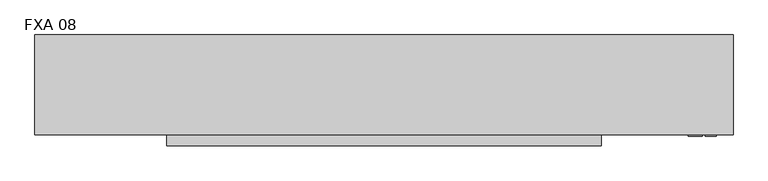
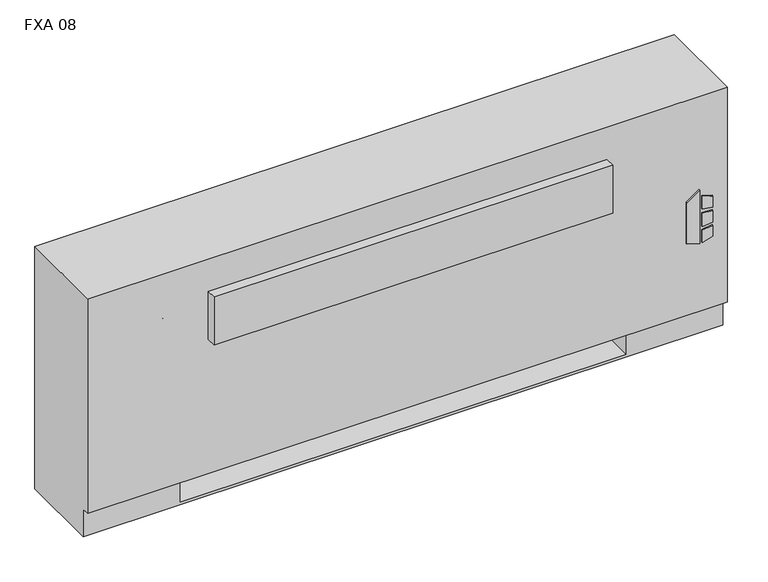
"""IFC4 building model written with IfcOpenShell, lengths in millimetres: proxy geometry, Vertical_Fan_Coil_Unit_-_FXA_-_IEC_-_4-Pipe_FS-FR_LH_2022 : FXA 08."""

from ifc_helpers import new_model, si_unit, point, frame, frame_2d, origin, place, context, project, spatial, polyline, circle_curve, trimmed, segment, composite_curve, outline, extrude, source, transform, mapped, element, save
from ifc_brep_helpers import plane_surface, revolved_surface, advanced_brep


def fxa_08_bbf97f14(model_context):
    return source(origin(), model_context, "Body", "SolidModel", [
        extrude(outline(polyline([(263.9480703, 849.3868862), (254.0, 881.5602728), (396.1709244, 881.5602728), (373.1489183, 849.3868862), (263.9480703, 849.3868862)])), frame((0.0, 12.7, 0.0), z_axis=(0.0, 1.0, 0.0), x_axis=(0.0, 0.0, 1.0)), (0.0, 0.0, 1.0), 3.175),
        extrude(outline(polyline([(342.9473557, 888.3186058), (339.7449632, 914.4), (368.9738042, 914.4), (377.0382193, 888.3186058), (342.9473557, 888.3186058)])), frame((0.0, 12.7, 0.0), z_axis=(0.0, 1.0, 0.0), x_axis=(0.0, 0.0, 1.0)), (0.0, 0.0, 1.0), 3.175),
        extrude(outline(polyline([(291.0838288, 914.4), (287.4183279, 888.3186058), (254.0, 888.3186058), (262.6342372, 914.4), (291.0838288, 914.4)])), frame((0.0, 12.7, 0.0), z_axis=(0.0, 1.0, 0.0), x_axis=(0.0, 0.0, 1.0)), (0.0, 0.0, 1.0), 3.175),
        extrude(outline(polyline([(330.3989903, 914.4), (332.6808166, 888.3186058), (296.7432681, 888.3186058), (299.4845331, 914.4), (330.3989903, 914.4)])), frame((0.0, 12.7, 0.0), z_axis=(0.0, 1.0, 0.0), x_axis=(0.0, 0.0, 1.0)), (0.0, 0.0, 1.0), 3.175),
        extrude(outline(polyline([(831.85, 223.266), (831.85, 81.534), (711.2, 81.534), (711.2, 223.266), (831.85, 223.266)])), frame((0.0, 0.0, 327.025), z_axis=(0.0, 0.0, 1.0), x_axis=(1.0, 0.0, 0.0)), (0.0, 0.0, 1.0), 260.35),
        extrude(outline(composite_curve([segment(trimmed(circle_curve(frame_2d((-469.9, 130.175)), 9.525), [point((-479.425, 130.175))], [point((-460.375, 130.175))], False, "CARTESIAN"), True, "CONTINUOUS"), segment(trimmed(circle_curve(frame_2d((-469.9, 130.175)), 9.525), [point((-460.375, 130.175))], [point((-479.425, 130.175))], False, "CARTESIAN"), True, "CONTINUOUS")], self_intersect=False)), frame((0.0, 0.0, 101.6), z_axis=(0.0, 0.0, 1.0), x_axis=(1.0, 0.0, 0.0)), (0.0, 0.0, 1.0), 25.4),
        extrude(outline(polyline([(-571.5, 63.5), (-571.5, 196.85), (-406.4, 196.85), (-406.4, 63.5), (-571.5, 63.5)])), frame((0.0, 0.0, 127.0), z_axis=(0.0, 0.0, 1.0), x_axis=(1.0, 0.0, 0.0)), (0.0, 0.0, 1.0), 50.8),
        extrude(outline(polyline([(650.875, -9.525), (-346.075, -9.525), (-346.075, 15.875), (650.875, 15.875), (650.875, -9.525)])), frame((0.0, 0.0, 428.625), z_axis=(0.0, 0.0, 1.0), x_axis=(1.0, 0.0, 0.0)), (0.0, 0.0, 1.0), 127.0),
        extrude(outline(composite_curve([segment(trimmed(circle_curve(frame_2d((109.0168, 457.2)), 7.9375), [point((109.0168, 465.1375))], [point((109.0168, 449.2625))], False, "CARTESIAN"), True, "CONTINUOUS"), segment(trimmed(circle_curve(frame_2d((109.0168, 457.2)), 7.9375), [point((109.0168, 449.2625))], [point((109.0168, 465.1375))], False, "CARTESIAN"), True, "CONTINUOUS")], self_intersect=False)), frame((-457.2, 0.0, 0.0), z_axis=(1.0, 0.0, 0.0), x_axis=(0.0, 1.0, 0.0)), (0.0, 0.0, 1.0), 50.8),
        extrude(outline(composite_curve([segment(trimmed(circle_curve(frame_2d((172.085, 460.0194)), 7.9375), [point((172.085, 467.9569))], [point((172.085, 452.0819))], False, "CARTESIAN"), True, "CONTINUOUS"), segment(trimmed(circle_curve(frame_2d((172.085, 460.0194)), 7.9375), [point((172.085, 452.0819))], [point((172.085, 467.9569))], False, "CARTESIAN"), True, "CONTINUOUS")], self_intersect=False)), frame((-457.2, 0.0, 0.0), z_axis=(1.0, 0.0, 0.0), x_axis=(0.0, 1.0, 0.0)), (0.0, 0.0, 1.0), 50.8),
        extrude(outline(composite_curve([segment(trimmed(circle_curve(frame_2d((130.175, 554.99)), 7.9502), [point((130.175, 562.9402))], [point((130.175, 547.0398))], False, "CARTESIAN"), True, "CONTINUOUS"), segment(trimmed(circle_curve(frame_2d((130.175, 554.99)), 7.9502), [point((130.175, 547.0398))], [point((130.175, 562.9402))], False, "CARTESIAN"), True, "CONTINUOUS")], self_intersect=False)), frame((-457.2, 0.0, 0.0), z_axis=(1.0, 0.0, 0.0), x_axis=(0.0, 1.0, 0.0)), (0.0, 0.0, 1.0), 50.8),
        extrude(outline(composite_curve([segment(trimmed(circle_curve(frame_2d((53.975, 416.56)), 7.9502), [point((53.975, 424.5102))], [point((53.975, 408.6098))], False, "CARTESIAN"), True, "CONTINUOUS"), segment(trimmed(circle_curve(frame_2d((53.975, 416.56)), 7.9502), [point((53.975, 408.6098))], [point((53.975, 424.5102))], False, "CARTESIAN"), True, "CONTINUOUS")], self_intersect=False)), frame((-457.2, 0.0, 0.0), z_axis=(1.0, 0.0, 0.0), x_axis=(0.0, 1.0, 0.0)), (0.0, 0.0, 1.0), 50.8),
        advanced_brep(
        [(952.5, 244.475, 641.35), (-647.7, 244.475, 641.35), (-647.7, 15.875, 641.35), (952.5, 15.875, 641.35), (-647.7, 244.475, 0.0), (952.5, 244.475, 0.0), (952.5, 34.925, 0.0), (-647.7, 34.925, 0.0), (711.2, 244.475, 73.025), (939.8, 244.475, 73.025), (939.8, 244.475, 628.65), (711.2, 244.475, 628.65), (711.2, 244.475, 414.8650565), (739.775, 244.475, 414.8650565), (739.775, 244.475, 385.2349435), (711.2, 244.475, 385.2349435), (711.2, 244.475, 287.3375), (739.775, 244.475, 287.3375), (739.775, 244.475, 258.7625), (711.2, 244.475, 258.7625), (711.2, 244.475, 141.2875), (739.775, 244.475, 141.2875), (739.775, 244.475, 112.7125), (711.2, 244.475, 112.7125), (-406.4, 244.475, 628.65), (-635.0, 244.475, 628.65), (-635.0, 244.475, 73.025), (-406.4, 244.475, 73.025), (-406.4, 244.475, 112.7125), (-434.975, 244.475, 112.7125), (-434.975, 244.475, 141.2875), (-406.4, 244.475, 141.2875), (-406.4, 244.475, 258.7625), (-434.975, 244.475, 258.7625), (-434.975, 244.475, 287.3375), (-406.4, 244.475, 287.3375), (-406.4, 244.475, 385.2349435), (-434.975, 244.475, 385.2349435), (-434.975, 244.475, 414.8650565), (-406.4, 244.475, 414.8650565), (729.4626, 244.475, 127.0), (718.3374, 244.475, 127.0), (729.4626, 244.475, 400.05), (718.3374, 244.475, 400.05), (729.4626, 244.475, 273.05), (718.3374, 244.475, 273.05), (-413.5374, 244.475, 127.0), (-424.6626, 244.475, 127.0), (-413.5374, 244.475, 273.05), (-424.6626, 244.475, 273.05), (-413.5374, 244.475, 400.05), (-424.6626, 244.475, 400.05), (-647.7, 34.925, 73.025), (-647.7, 15.875, 73.025), (952.5, 15.875, 73.025), (952.5, 34.925, 73.025), (-406.4, 34.925, 73.025), (-406.4, 219.075, 73.025), (711.2, 219.075, 73.025), (711.2, 34.925, 73.025), (711.2, 34.925, 6.35), (-406.4, 34.925, 6.35), (711.2, 41.275, 628.65), (939.8, 41.275, 628.65), (939.8, 41.275, 73.025), (711.2, 41.275, 73.025), (-406.4, 41.275, 628.65), (-406.4, 41.275, 73.025), (-635.0, 41.275, 73.025), (-635.0, 41.275, 628.65), (711.2, 219.075, 73.025), (711.2, 238.125, 112.7125), (711.2, 238.125, 141.2875), (711.2, 238.125, 258.7625), (711.2, 238.125, 287.3375), (711.2, 238.125, 385.2349435), (711.2, 238.125, 414.8650565), (-406.4, 219.075, 73.025), (-406.4, 238.125, 414.8650565), (-406.4, 238.125, 385.2349435), (-406.4, 238.125, 287.3375), (-406.4, 238.125, 258.7625), (-406.4, 238.125, 141.2875), (-406.4, 238.125, 112.7125), (-406.4, 219.075, 6.35), (711.2, 219.075, 6.35), (739.775, 238.125, 112.7125), (739.775, 238.125, 141.2875), (718.3374, 238.125, 127.0), (729.4626, 238.125, 127.0), (739.775, 238.125, 258.7625), (739.775, 238.125, 287.3375), (718.3374, 238.125, 273.05), (729.4626, 238.125, 273.05), (739.775, 238.125, 385.2349435), (739.775, 238.125, 414.8650565), (718.3374, 238.125, 400.05), (729.4626, 238.125, 400.05), (-434.975, 238.125, 141.2875), (-434.975, 238.125, 112.7125), (-424.6626, 238.125, 127.0), (-413.5374, 238.125, 127.0), (-434.975, 238.125, 287.3375), (-434.975, 238.125, 258.7625), (-424.6626, 238.125, 273.05), (-413.5374, 238.125, 273.05), (-434.975, 238.125, 414.8650565), (-434.975, 238.125, 385.2349435), (-424.6626, 238.125, 400.05), (-413.5374, 238.125, 400.05)],
        [
            (0, 1),
            (1, 2),
            (2, 3),
            (3, 0),
            (4, 5),
            (5, 6),
            (6, 7),
            (7, 4),
            (0, 5),
            (4, 1),
            (8, 9),
            (9, 10),
            (10, 11),
            (11, 12),
            (12, 13),
            (13, 14),
            (14, 15),
            (15, 16),
            (16, 17),
            (17, 18),
            (18, 19),
            (19, 20),
            (20, 21),
            (21, 22),
            (22, 23),
            (23, 8),
            (24, 25),
            (25, 26),
            (26, 27),
            (27, 28),
            (28, 29),
            (29, 30),
            (30, 31),
            (31, 32),
            (32, 33),
            (33, 34),
            (34, 35),
            (35, 36),
            (36, 37),
            (37, 38),
            (38, 39),
            (39, 24),
            (40, 41, circle_curve(frame((723.9, 244.475, 127.0), z_axis=(0.0, -1.0, 0.0), x_axis=(-1.0, 0.0, 0.0)), 5.5626)),
            (41, 40, circle_curve(frame((723.9, 244.475, 127.0), z_axis=(0.0, -1.0, 0.0), x_axis=(-1.0, 0.0, 0.0)), 5.5626)),
            (42, 43, circle_curve(frame((723.9, 244.475, 400.05), z_axis=(0.0, -1.0, 0.0), x_axis=(-1.0, 0.0, 0.0)), 5.5626)),
            (43, 42, circle_curve(frame((723.9, 244.475, 400.05), z_axis=(0.0, -1.0, 0.0), x_axis=(-1.0, 0.0, 0.0)), 5.5626)),
            (44, 45, circle_curve(frame((723.9, 244.475, 273.05), z_axis=(0.0, -1.0, 0.0), x_axis=(-1.0, 0.0, 0.0)), 5.5626)),
            (45, 44, circle_curve(frame((723.9, 244.475, 273.05), z_axis=(0.0, -1.0, 0.0), x_axis=(-1.0, 0.0, 0.0)), 5.5626)),
            (46, 47, circle_curve(frame((-419.1, 244.475, 127.0), z_axis=(0.0, -1.0, 0.0), x_axis=(-1.0, 0.0, 0.0)), 5.5626)),
            (47, 46, circle_curve(frame((-419.1, 244.475, 127.0), z_axis=(0.0, -1.0, 0.0), x_axis=(-1.0, 0.0, 0.0)), 5.5626)),
            (48, 49, circle_curve(frame((-419.1, 244.475, 273.05), z_axis=(0.0, -1.0, 0.0), x_axis=(-1.0, 0.0, 0.0)), 5.5626)),
            (49, 48, circle_curve(frame((-419.1, 244.475, 273.05), z_axis=(0.0, -1.0, 0.0), x_axis=(-1.0, 0.0, 0.0)), 5.5626)),
            (50, 51, circle_curve(frame((-419.1, 244.475, 400.05), z_axis=(0.0, -1.0, 0.0), x_axis=(-1.0, 0.0, 0.0)), 5.5626)),
            (51, 50, circle_curve(frame((-419.1, 244.475, 400.05), z_axis=(0.0, -1.0, 0.0), x_axis=(-1.0, 0.0, 0.0)), 5.5626)),
            (7, 52),
            (52, 53),
            (53, 2),
            (53, 54),
            (54, 3),
            (54, 55),
            (55, 6),
            (52, 56),
            (56, 57),
            (57, 58),
            (58, 59),
            (59, 55),
            (59, 60),
            (60, 61),
            (61, 56),
            (62, 63),
            (63, 64),
            (64, 65),
            (65, 62),
            (66, 67),
            (67, 68),
            (68, 69),
            (69, 66),
            (65, 70),
            (70, 8),
            (23, 71),
            (71, 72),
            (72, 20),
            (19, 73),
            (73, 74),
            (74, 16),
            (15, 75),
            (75, 76),
            (76, 12),
            (11, 62),
            (64, 9),
            (63, 10),
            (69, 25),
            (24, 66),
            (68, 26),
            (67, 77),
            (77, 27),
            (39, 78),
            (78, 79),
            (79, 36),
            (35, 80),
            (80, 81),
            (81, 32),
            (31, 82),
            (82, 83),
            (83, 28),
            (57, 84),
            (84, 85),
            (85, 58),
            (85, 60),
            (84, 61),
            (71, 86),
            (86, 87),
            (87, 72),
            (88, 89, circle_curve(frame((723.9, 238.125, 127.0), z_axis=(0.0, 1.0, 0.0), x_axis=(-1.0, 0.0, 0.0)), 5.5626)),
            (89, 88, circle_curve(frame((723.9, 238.125, 127.0), z_axis=(0.0, 1.0, 0.0), x_axis=(-1.0, 0.0, 0.0)), 5.5626)),
            (73, 90),
            (90, 91),
            (91, 74),
            (92, 93, circle_curve(frame((723.9, 238.125, 273.05), z_axis=(0.0, 1.0, 0.0), x_axis=(-1.0, 0.0, 0.0)), 5.5626)),
            (93, 92, circle_curve(frame((723.9, 238.125, 273.05), z_axis=(0.0, 1.0, 0.0), x_axis=(-1.0, 0.0, 0.0)), 5.5626)),
            (75, 94),
            (94, 95),
            (95, 76),
            (96, 97, circle_curve(frame((723.9, 238.125, 400.05), z_axis=(0.0, 1.0, 0.0), x_axis=(-1.0, 0.0, 0.0)), 5.5626)),
            (97, 96, circle_curve(frame((723.9, 238.125, 400.05), z_axis=(0.0, 1.0, 0.0), x_axis=(-1.0, 0.0, 0.0)), 5.5626)),
            (98, 99),
            (99, 83),
            (82, 98),
            (100, 101, circle_curve(frame((-419.1, 238.125, 127.0), z_axis=(0.0, 1.0, 0.0), x_axis=(-1.0, 0.0, 0.0)), 5.5626)),
            (101, 100, circle_curve(frame((-419.1, 238.125, 127.0), z_axis=(0.0, 1.0, 0.0), x_axis=(-1.0, 0.0, 0.0)), 5.5626)),
            (102, 103),
            (103, 81),
            (80, 102),
            (104, 105, circle_curve(frame((-419.1, 238.125, 273.05), z_axis=(0.0, 1.0, 0.0), x_axis=(-1.0, 0.0, 0.0)), 5.5626)),
            (105, 104, circle_curve(frame((-419.1, 238.125, 273.05), z_axis=(0.0, 1.0, 0.0), x_axis=(-1.0, 0.0, 0.0)), 5.5626)),
            (106, 107),
            (107, 79),
            (78, 106),
            (108, 109, circle_curve(frame((-419.1, 238.125, 400.05), z_axis=(0.0, 1.0, 0.0), x_axis=(-1.0, 0.0, 0.0)), 5.5626)),
            (109, 108, circle_curve(frame((-419.1, 238.125, 400.05), z_axis=(0.0, 1.0, 0.0), x_axis=(-1.0, 0.0, 0.0)), 5.5626)),
            (87, 21),
            (86, 22),
            (91, 17),
            (90, 18),
            (95, 13),
            (94, 14),
            (30, 98),
            (99, 29),
            (34, 102),
            (103, 33),
            (38, 106),
            (107, 37),
            (88, 41),
            (40, 89),
            (96, 43),
            (42, 97),
            (92, 45),
            (44, 93),
            (100, 47),
            (46, 101),
            (104, 49),
            (48, 105),
            (108, 51),
            (50, 109),
        ],
        [
            plane_surface(frame((-647.7, 244.475, 641.35), z_axis=(0.0, 0.0, 1.0), x_axis=(-1.0, 0.0, 0.0))),
            plane_surface(frame((-647.7, 244.475, 0.0), z_axis=(0.0, 0.0, -1.0), x_axis=(1.0, 0.0, 0.0))),
            plane_surface(frame((952.5, 244.475, 641.35), z_axis=(0.0, 1.0, 0.0), x_axis=(0.0, 0.0, -1.0))),
            plane_surface(frame((-647.7, 244.475, 641.35), z_axis=(-1.0, 0.0, 0.0), x_axis=(0.0, 0.0, -1.0))),
            plane_surface(frame((-647.7, 15.875, 641.35), z_axis=(0.0, -1.0, 0.0), x_axis=(0.0, 0.0, -1.0))),
            plane_surface(frame((952.5, 15.875, 641.35), z_axis=(1.0, 0.0, 0.0), x_axis=(0.0, 0.0, -1.0))),
            plane_surface(frame((-647.7, 15.875, 73.025), z_axis=(0.0, 0.0, -1.0), x_axis=(1.0, 0.0, 0.0))),
            plane_surface(frame((-647.7, 34.925, 73.025), z_axis=(0.0, -1.0, 0.0), x_axis=(1.0, 0.0, 0.0))),
            plane_surface(frame((711.2, 41.275, 628.65), z_axis=(0.0, 1.0, 0.0), x_axis=(0.0, 0.0, -1.0))),
            plane_surface(frame((711.2, 41.275, 628.65), z_axis=(1.0, 0.0, 0.0), x_axis=(0.0, 1.0, 0.0))),
            plane_surface(frame((711.2, 41.275, 73.025), z_axis=(0.0, 0.0, 1.0), x_axis=(0.0, 1.0, 0.0))),
            plane_surface(frame((939.8, 41.275, 73.025), z_axis=(-1.0, 0.0, 0.0), x_axis=(0.0, 1.0, 0.0))),
            plane_surface(frame((939.8, 41.275, 628.65), z_axis=(0.0, 0.0, -1.0), x_axis=(0.0, 1.0, 0.0))),
            plane_surface(frame((-406.4, 41.275, 628.65), z_axis=(0.0, 0.0, -1.0), x_axis=(0.0, 1.0, 0.0))),
            plane_surface(frame((-635.0, 41.275, 628.65), z_axis=(1.0, 0.0, 0.0), x_axis=(0.0, 1.0, 0.0))),
            plane_surface(frame((-635.0, 41.275, 73.025), z_axis=(0.0, 0.0, 1.0), x_axis=(0.0, 1.0, 0.0))),
            plane_surface(frame((-406.4, 41.275, 73.025), z_axis=(-1.0, 0.0, 0.0), x_axis=(0.0, 1.0, 0.0))),
            plane_surface(frame((711.2, 219.075, 73.025), z_axis=(0.0, -1.0, 0.0), x_axis=(0.0, 0.0, -1.0))),
            plane_surface(frame((711.2, 219.075, 73.025), z_axis=(-1.0, 0.0, 0.0), x_axis=(0.0, -1.0, 0.0))),
            plane_surface(frame((711.2, 219.075, 6.35), z_axis=(0.0, 0.0, 1.0), x_axis=(0.0, -1.0, 0.0))),
            plane_surface(frame((-406.4, 219.075, 6.35), z_axis=(1.0, 0.0, 0.0), x_axis=(0.0, -1.0, 0.0))),
            plane_surface(frame((739.775, 238.125, 141.2875), z_axis=(0.0, -1.0, 0.0), x_axis=(-1.0, 0.0, 0.0))),
            plane_surface(frame((711.2, 244.475, 141.2875), z_axis=(0.0, 0.0, 1.0), x_axis=(0.0, -1.0, 0.0))),
            plane_surface(frame((739.775, 244.475, 141.2875), z_axis=(1.0, 0.0, 0.0), x_axis=(0.0, -1.0, 0.0))),
            plane_surface(frame((739.775, 244.475, 112.7125), z_axis=(0.0, 0.0, -1.0), x_axis=(0.0, -1.0, 0.0))),
            plane_surface(frame((711.2, 244.475, 287.3375), z_axis=(0.0, 0.0, 1.0), x_axis=(0.0, -1.0, 0.0))),
            plane_surface(frame((739.775, 244.475, 287.3375), z_axis=(1.0, 0.0, 0.0), x_axis=(0.0, -1.0, 0.0))),
            plane_surface(frame((739.775, 244.475, 258.7625), z_axis=(0.0, 0.0, -1.0), x_axis=(0.0, -1.0, 0.0))),
            plane_surface(frame((711.2, 244.475, 414.8650565), z_axis=(0.0, 0.0, 1.0), x_axis=(0.0, -1.0, 0.0))),
            plane_surface(frame((739.775, 244.475, 414.8650565), z_axis=(1.0, 0.0, 0.0), x_axis=(0.0, -1.0, 0.0))),
            plane_surface(frame((739.775, 244.475, 385.2349435), z_axis=(0.0, 0.0, -1.0), x_axis=(0.0, -1.0, 0.0))),
            plane_surface(frame((-434.975, 244.475, 141.2875), z_axis=(0.0, 0.0, 1.0), x_axis=(0.0, -1.0, 0.0))),
            plane_surface(frame((-406.4, 244.475, 112.7125), z_axis=(0.0, 0.0, -1.0), x_axis=(0.0, -1.0, 0.0))),
            plane_surface(frame((-434.975, 244.475, 112.7125), z_axis=(-1.0, 0.0, 0.0), x_axis=(0.0, -1.0, 0.0))),
            plane_surface(frame((-434.975, 244.475, 287.3375), z_axis=(0.0, 0.0, 1.0), x_axis=(0.0, -1.0, 0.0))),
            plane_surface(frame((-406.4, 244.475, 258.7625), z_axis=(0.0, 0.0, -1.0), x_axis=(0.0, -1.0, 0.0))),
            plane_surface(frame((-434.975, 244.475, 258.7625), z_axis=(-1.0, 0.0, 0.0), x_axis=(0.0, -1.0, 0.0))),
            plane_surface(frame((-434.975, 244.475, 414.8650565), z_axis=(0.0, 0.0, 1.0), x_axis=(0.0, -1.0, 0.0))),
            plane_surface(frame((-406.4, 244.475, 385.2349435), z_axis=(0.0, 0.0, -1.0), x_axis=(0.0, -1.0, 0.0))),
            plane_surface(frame((-434.975, 244.475, 385.2349435), z_axis=(-1.0, 0.0, 0.0), x_axis=(0.0, -1.0, 0.0))),
            revolved_surface(polyline([(718.3374, 238.125, 127.0), (718.3374, 244.475, 127.0)]), (723.9, 244.475, 127.0), (0.0, -1.0, 0.0)),
            revolved_surface(polyline([(718.3374, 238.125, 400.05), (718.3374, 244.475, 400.05)]), (723.9, 244.475, 400.05), (0.0, -1.0, 0.0)),
            revolved_surface(polyline([(718.3374, 238.125, 273.05), (718.3374, 244.475, 273.05)]), (723.9, 244.475, 273.05), (0.0, -1.0, 0.0)),
            revolved_surface(polyline([(-424.6626, 238.125, 127.0), (-424.6626, 244.475, 127.0)]), (-419.1, 244.475, 127.0), (0.0, -1.0, 0.0)),
            revolved_surface(polyline([(-424.6626, 238.125, 273.05), (-424.6626, 244.475, 273.05)]), (-419.1, 244.475, 273.05), (0.0, -1.0, 0.0)),
            revolved_surface(polyline([(-424.6626, 238.125, 400.05), (-424.6626, 244.475, 400.05)]), (-419.1, 244.475, 400.05), (0.0, -1.0, 0.0)),
        ],
        [
            (0, [[1, 2, 3, 4]]),
            (1, [[5, 6, 7, 8]]),
            (2, [[-1, 9, -5, 10], [11, 12, 13, 14, 15, 16, 17, 18, 19, 20, 21, 22, 23, 24, 25, 26], [27, 28, 29, 30, 31, 32, 33, 34, 35, 36, 37, 38, 39, 40, 41, 42], [43, 44], [45, 46], [47, 48], [49, 50], [51, 52], [53, 54]]),
            (3, [[-2, -10, -8, 55, 56, 57]]),
            (4, [[-3, -57, 58, 59]]),
            (5, [[-4, -59, 60, 61, -6, -9]]),
            (6, [[-56, 62, 63, 64, 65, 66, -60, -58]]),
            (7, [[-7, -61, -66, 67, 68, 69, -62, -55]]),
            (8, [[70, 71, 72, 73]]),
            (8, [[74, 75, 76, 77]]),
            (9, [[-73, 78, 79, -26, 80, 81, 82, -22, 83, 84, 85, -18, 86, 87, 88, -14, 89]]),
            (10, [[-72, 90, -11, -79, -78]]),
            (11, [[-71, 91, -12, -90]]),
            (12, [[-70, -89, -13, -91]]),
            (13, [[-77, 92, -27, 93]]),
            (14, [[-76, 94, -28, -92]]),
            (15, [[-75, 95, 96, -29, -94]]),
            (16, [[-74, -93, -42, 97, 98, 99, -38, 100, 101, 102, -34, 103, 104, 105, -30, -96, -95]]),
            (17, [[-64, 106, 107, 108]]),
            (18, [[-108, 109, -67, -65]]),
            (19, [[-107, 110, -68, -109]]),
            (20, [[-106, -63, -69, -110]]),
            (21, [[111, 112, 113, -81], [114, 115]]),
            (21, [[116, 117, 118, -84], [119, 120]]),
            (21, [[121, 122, 123, -87], [124, 125]]),
            (21, [[126, 127, -104, 128], [129, 130]]),
            (21, [[131, 132, -101, 133], [134, 135]]),
            (21, [[136, 137, -98, 138], [139, 140]]),
            (22, [[-113, 141, -23, -82]]),
            (23, [[-112, 142, -24, -141]]),
            (24, [[-111, -80, -25, -142]]),
            (25, [[-118, 143, -19, -85]]),
            (26, [[-117, 144, -20, -143]]),
            (27, [[-116, -83, -21, -144]]),
            (28, [[-123, 145, -15, -88]]),
            (29, [[-122, 146, -16, -145]]),
            (30, [[-121, -86, -17, -146]]),
            (31, [[-128, -103, -33, 147]]),
            (32, [[-127, 148, -31, -105]]),
            (33, [[-126, -147, -32, -148]]),
            (34, [[-133, -100, -37, 149]]),
            (35, [[-132, 150, -35, -102]]),
            (36, [[-131, -149, -36, -150]]),
            (37, [[-138, -97, -41, 151]]),
            (38, [[-137, 152, -39, -99]]),
            (39, [[-136, -151, -40, -152]]),
            (40, [[153, -43, 154, -114]]),
            (40, [[-153, -115, -154, -44]]),
            (41, [[155, -45, 156, -124]]),
            (41, [[-155, -125, -156, -46]]),
            (42, [[157, -47, 158, -119]]),
            (42, [[-157, -120, -158, -48]]),
            (43, [[159, -49, 160, -129]]),
            (43, [[-159, -130, -160, -50]]),
            (44, [[161, -51, 162, -134]]),
            (44, [[-161, -135, -162, -52]]),
            (45, [[163, -53, 164, -139]]),
            (45, [[-163, -140, -164, -54]]),
        ],
    ),
    ])


if __name__ == "__main__":
    model = new_model("IFC4")
    model_context = context("Model", 3, world=origin())
    ifc_project = project(units=[si_unit("LENGTHUNIT", "METRE", prefix="MILLI")], contexts=[model_context])
    site = spatial("IfcSite", under=ifc_project)
    building = spatial("IfcBuilding", under=site)
    placement = place(None, origin())
    fxa_08_shape = fxa_08_bbf97f14(model_context)
    element("IfcBuildingElementProxy", 1, Name="Vertical_Fan_Coil_Unit_-_FXA_-_IEC_-_4-Pipe_FS-FR_LH_2022 : FXA 08", ObjectType="Vertical_Fan_Coil_Unit_-_FXA_-_IEC_-_4-Pipe_FS-FR_LH_2022 : FXA 08", at=placement, inside=building, context=model_context, shape_type="MappedRepresentation", body=[
        mapped(fxa_08_shape, transform((0.0, 0.0, 0.0), x_axis=(1.0, 0.0, 0.0), y_axis=(0.0, 1.0, 0.0), z_axis=(0.0, 0.0, 1.0))),
    ])
    save(model, "model.ifc")
